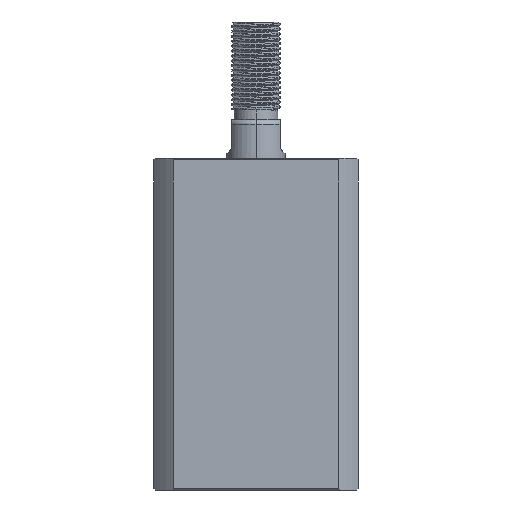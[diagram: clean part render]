
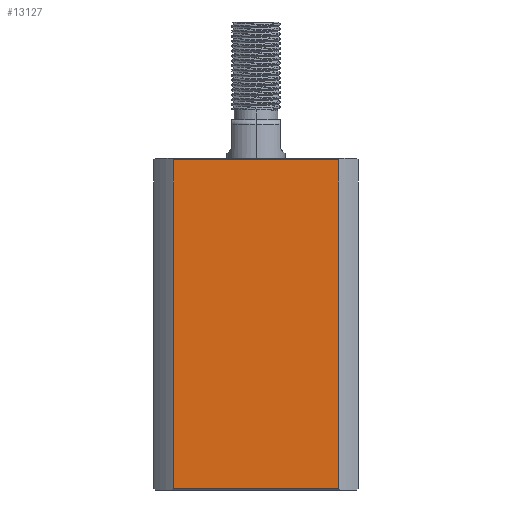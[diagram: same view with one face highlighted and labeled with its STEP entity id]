
A CAD part, left-side view. The second image highlights one B-rep face of the part: STEP entity #13127.
In plain terms, the highlighted planar face has unit normal (-1, 0, 0).
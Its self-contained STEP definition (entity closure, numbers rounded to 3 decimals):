
#156 = ORIENTED_EDGE ( 'NONE', *, *, #1967, .T. ) ;
#1335 = CARTESIAN_POINT ( 'NONE',  ( -21., 21., 0.3 ) ) ;
#1567 = DIRECTION ( 'NONE',  ( 0., 1., 0. ) ) ;
#1777 = ORIENTED_EDGE ( 'NONE', *, *, #9092, .F. ) ;
#1953 = ORIENTED_EDGE ( 'NONE', *, *, #14740, .T. ) ;
#1967 = EDGE_CURVE ( 'NONE', #10126, #13871, #5219, .T. ) ;
#2190 = VECTOR ( 'NONE', #10703, 1000. ) ;
#2259 = ORIENTED_EDGE ( 'NONE', *, *, #11435, .F. ) ;
#3551 = CARTESIAN_POINT ( 'NONE',  ( -21., 16.971, 0.3 ) ) ;
#4885 = VECTOR ( 'NONE', #4925, 1000. ) ;
#4925 = DIRECTION ( 'NONE',  ( 0., 0., 1. ) ) ;
#5219 = LINE ( 'NONE', #1335, #10600 ) ;
#5281 = LINE ( 'NONE', #9537, #2190 ) ;
#5489 = PLANE ( 'NONE',  #6608 ) ;
#5537 = DIRECTION ( 'NONE',  ( 1., 0., 0. ) ) ;
#6608 = AXIS2_PLACEMENT_3D ( 'NONE', #14713, #5537, #13605 ) ;
#7022 = CARTESIAN_POINT ( 'NONE',  ( -21., 16.971, -132. ) ) ;
#7822 = EDGE_LOOP ( 'NONE', ( #2259, #156, #1777, #1953 ) ) ;
#7838 = CARTESIAN_POINT ( 'NONE',  ( -21., 16.971, 67.7 ) ) ;
#7922 = LINE ( 'NONE', #7022, #4885 ) ;
#8336 = CARTESIAN_POINT ( 'NONE',  ( -21., -16.971, 0.3 ) ) ;
#8591 = VECTOR ( 'NONE', #1567, 1000. ) ;
#8887 = VERTEX_POINT ( 'NONE', #9220 ) ;
#9092 = EDGE_CURVE ( 'NONE', #8887, #13871, #5281, .T. ) ;
#9220 = CARTESIAN_POINT ( 'NONE',  ( -21., -16.971, 67.7 ) ) ;
#9537 = CARTESIAN_POINT ( 'NONE',  ( -21., -16.971, -132. ) ) ;
#9941 = DIRECTION ( 'NONE',  ( 0., -1., 0. ) ) ;
#10126 = VERTEX_POINT ( 'NONE', #3551 ) ;
#10600 = VECTOR ( 'NONE', #9941, 1000. ) ;
#10703 = DIRECTION ( 'NONE',  ( 0., 0., -1. ) ) ;
#10922 = VERTEX_POINT ( 'NONE', #7838 ) ;
#11435 = EDGE_CURVE ( 'NONE', #10126, #10922, #7922, .T. ) ;
#11887 = FACE_OUTER_BOUND ( 'NONE', #7822, .T. ) ;
#12394 = LINE ( 'NONE', #14282, #8591 ) ;
#13127 = ADVANCED_FACE ( 'NONE', ( #11887 ), #5489, .F. ) ;
#13605 = DIRECTION ( 'NONE',  ( 0., 1., 0. ) ) ;
#13871 = VERTEX_POINT ( 'NONE', #8336 ) ;
#14282 = CARTESIAN_POINT ( 'NONE',  ( -21., 21., 67.7 ) ) ;
#14713 = CARTESIAN_POINT ( 'NONE',  ( -21., 21., 68. ) ) ;
#14740 = EDGE_CURVE ( 'NONE', #8887, #10922, #12394, .T. ) ;
